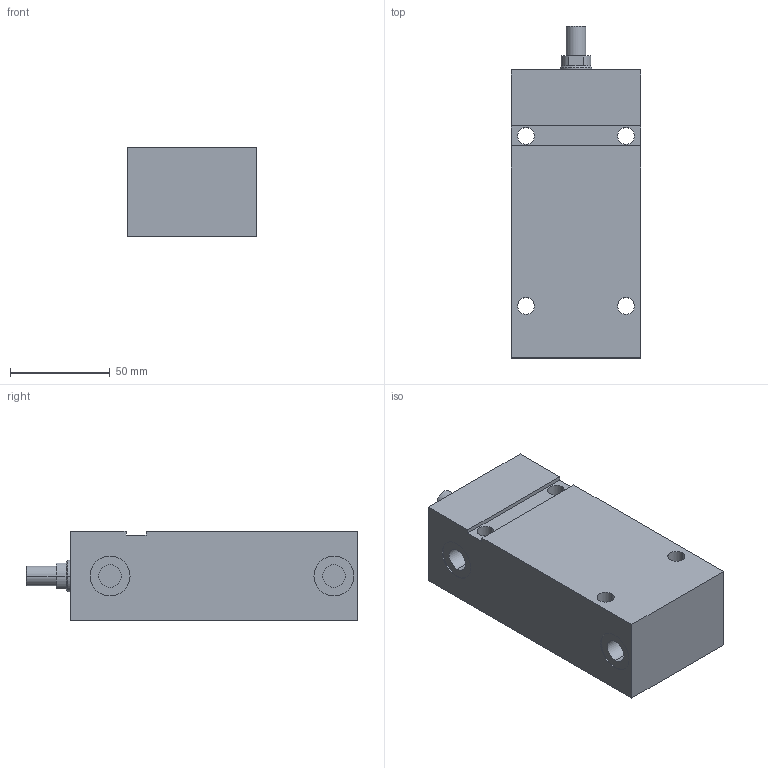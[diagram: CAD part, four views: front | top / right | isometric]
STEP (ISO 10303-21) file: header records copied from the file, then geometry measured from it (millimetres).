
FILE_DESCRIPTION (( 'STEP AP203' ), '1' );
FILE_NAME ('GERMA_Blockzylinder_602-025-100-A.STEP', '2015-06-20T17:58:23', ( '' ), ( '' ), 'SwSTEP 2.0', 'SolidWorks 2013', '' );
FILE_SCHEMA (( 'CONFIG_CONTROL_DESIGN' ));
Length unit declared in the file: millimetre
Products named in the file (3): Kolben 60x-025_Kolben DU.25-Hub100-AG; GH-600-025_GH-602-025-100; GERMA_Blockzylinder_602-025-100-A
Assembly tree (2 placements, depth 2):
  GERMA_Blockzylinder_602-025-100-A
    GH-600-025_GH-602-025-100
    Kolben 60x-025_Kolben DU.25-Hub100-AG
Bounding box: 65 x 166 x 45 mm (x, y, z)
Volume: 379920.8 mm3; surface area: 62571.8 mm2
Topology: 2 solids, 2 shells, 73 faces, 162 edges, 101 vertices
Faces by surface type: cylinder 35, plane 26, cone 12
Entity records: 2330 total; most frequent: DIRECTION 395, CARTESIAN_POINT 337, ORIENTED_EDGE 316, AXIS2_PLACEMENT_3D 159, EDGE_CURVE 158, VERTEX_POINT 101, EDGE_LOOP 93, CIRCLE 81
